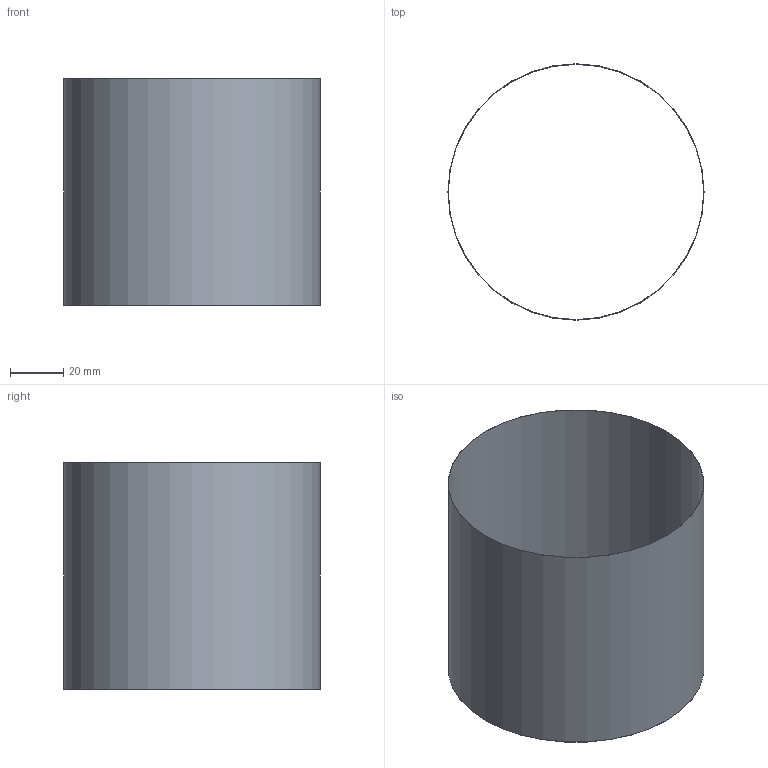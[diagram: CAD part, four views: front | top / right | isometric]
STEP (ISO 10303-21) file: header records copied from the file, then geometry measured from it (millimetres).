
FILE_DESCRIPTION(('FreeCAD Model'),'2;1');
FILE_NAME('Open CASCADE Shape Model','2026-11-05T18:53:51',('FreeCAD'),( 'FreeCAD'),'Open CASCADE STEP processor 7.8','FreeCAD','Unknown');
FILE_SCHEMA(('AUTOMOTIVE_DESIGN { 1 0 10303 214 1 1 1 1 }'));
Length unit declared in the file: millimetre
Products named in the file (1): Open CASCADE STEP translator 7.8 39
Bounding box: 96.2 x 96.2 x 85 mm (x, y, z)
Volume: 2566.2 mm3; surface area: 51384.6 mm2
Topology: 1 solids, 1 shells, 4 faces, 6 edges, 4 vertices
Faces by surface type: cylinder 2, plane 2
Full cylindrical faces by diameter (mm): 96 x1, 96.2 x1
Entity records: 108 total; most frequent: DIRECTION 20, CARTESIAN_POINT 15, ORIENTED_EDGE 12, AXIS2_PLACEMENT_3D 9, FACE_BOUND 6, EDGE_LOOP 6, EDGE_CURVE 6, ADVANCED_FACE 4
